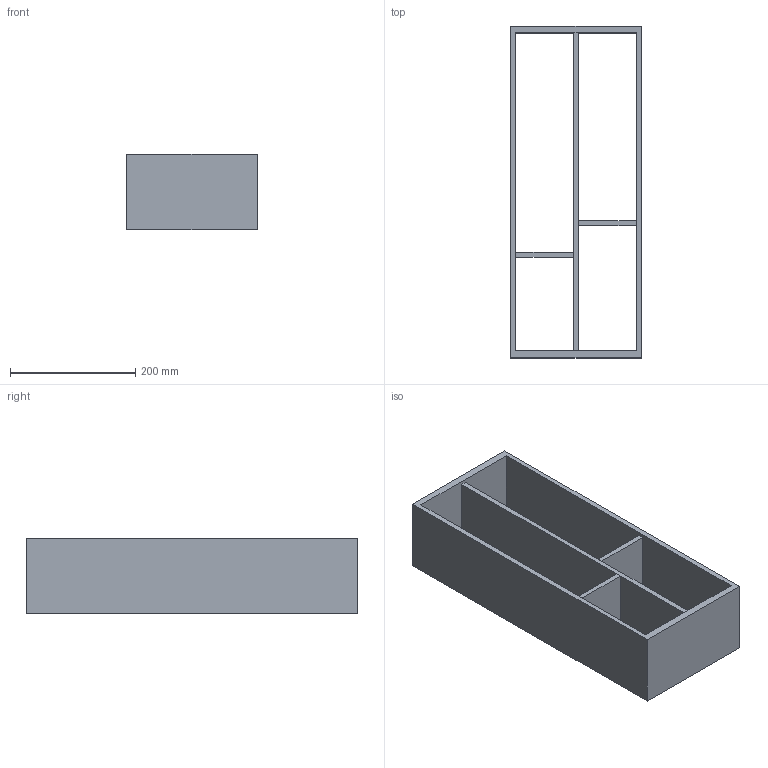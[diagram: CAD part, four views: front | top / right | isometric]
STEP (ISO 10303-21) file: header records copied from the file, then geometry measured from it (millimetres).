
FILE_DESCRIPTION (( 'STEP AP214' ), '1' );
FILE_NAME ('Vario Multi H120 NL550_B300_16 mm_Alu-Alu.step', '2010-10-08T09:48:05', ( 'grass' ), ( '' ), 'SwSTEP 2.0', 'SolidWorks 2010', '' );
FILE_SCHEMA (( 'AUTOMOTIVE_DESIGN' ));
Length unit declared in the file: millimetre
Products named in the file (1): Vario Multi H120 NL550_B300_16 mm_Alu-Alu
Bounding box: 208 x 529 x 120 mm (x, y, z)
Volume: 2152667.3 mm3; surface area: 533127.9 mm2
Topology: 1 solids, 1 shells, 22 faces, 60 edges, 40 vertices
Faces by surface type: plane 22
Entity records: 734 total; most frequent: CARTESIAN_POINT 123, ORIENTED_EDGE 120, DIRECTION 106, EDGE_CURVE 60, LINE 60, VECTOR 60, VERTEX_POINT 40, EDGE_LOOP 30
